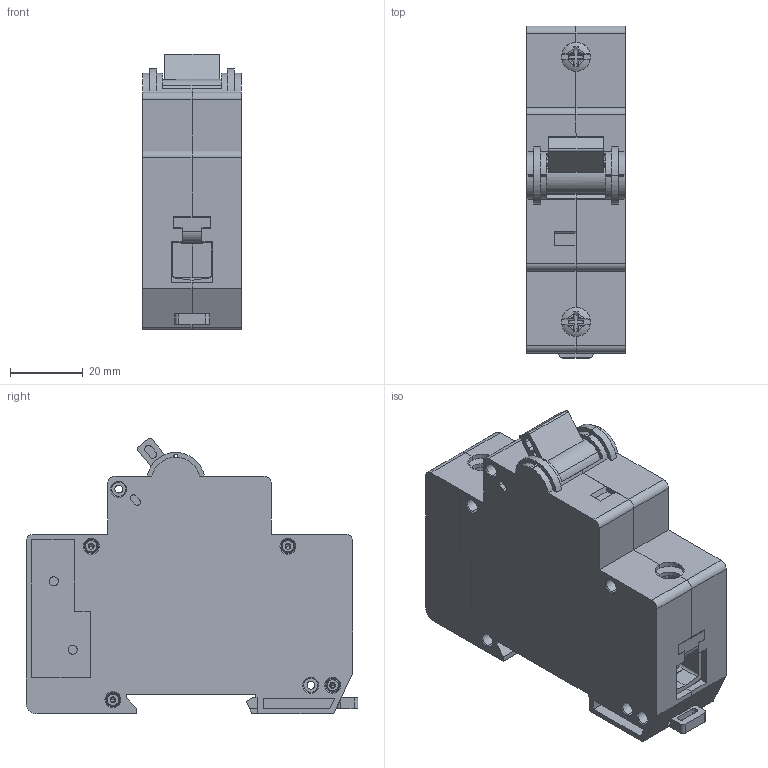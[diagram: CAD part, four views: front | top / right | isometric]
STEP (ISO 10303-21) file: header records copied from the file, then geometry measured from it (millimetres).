
FILE_DESCRIPTION (( 'STEP AP214' ), '1' );
FILE_NAME ('ﾂﾌ125 1ﾕ.STEP', '2013-04-03T11:21:28', ( '1' ), ( 'keaz' ), 'SwSTEP 2.0', 'SolidWorks 2007', '' );
FILE_SCHEMA (( 'AUTOMOTIVE_DESIGN' ));
Length unit declared in the file: millimetre
Products named in the file (12): Çàãëóøêà 1_Ïî óìîë÷àíèþ; âûâîîä_Ïî óìîë÷àíèþ; çàùåëêà; Êîëîäêà_Ïî óìîë÷àíèþ; 鎔艜; Âñòàâêà_Ïî óìîë÷àíèþ; Çàãëóøêà 2_Ïî óìîë÷àíèþ; Çàêëåïêà 1 ïîëþñ_Äëÿ ñáîðêè; Ðó÷êà; ﾂﾌ125 1ﾕ; Áîêîâèíà ïðàâàÿ_Ïî óìîë÷àíèþ; Áîêîâèíà ëåâàÿ_ëåâàÿ áîêîâèíà
Assembly tree (17 placements, depth 2):
  ﾂﾌ125 1ﾕ
    Çàêëåïêà 1 ïîëþñ_Äëÿ ñáîðêè  x4
    Ðó÷êà
    Áîêîâèíà ïðàâàÿ_Ïî óìîë÷àíèþ
    Êîëîäêà_Ïî óìîë÷àíèþ  x2
    Áîêîâèíà ëåâàÿ_ëåâàÿ áîêîâèíà
    çàùåëêà
    âûâîîä_Ïî óìîë÷àíèþ  x2
    Çàãëóøêà 2_Ïî óìîë÷àíèþ
    鎔艜  x2
    Âñòàâêà_Ïî óìîë÷àíèþ
    Çàãëóøêà 1_Ïî óìîë÷àíèþ
Bounding box: 27 x 91.35 x 76 mm (x, y, z)
Volume: 113543.7 mm3; surface area: 51345.3 mm2
Topology: 17 solids, 17 shells, 1026 faces, 2662 edges, 1714 vertices
Faces by surface type: plane 628, cylinder 304, torus 60, cone 34
Entity records: 25388 total; most frequent: CARTESIAN_POINT 4470, DIRECTION 4300, ORIENTED_EDGE 4272, EDGE_CURVE 2136, LINE 1550, VECTOR 1550, VERTEX_POINT 1395, AXIS2_PLACEMENT_3D 1375
